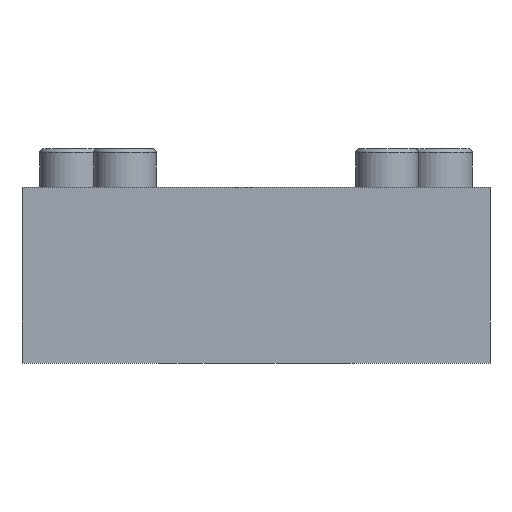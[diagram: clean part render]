
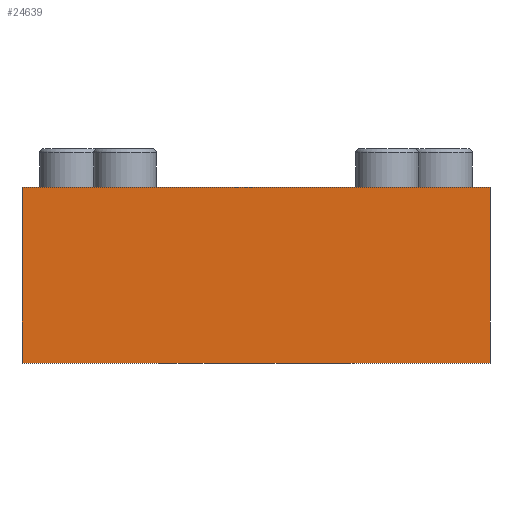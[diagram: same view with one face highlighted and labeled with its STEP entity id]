
A CAD part, front view. The second image highlights one B-rep face of the part: STEP entity #24639.
In plain terms, the highlighted planar face has unit normal (0, -1, 0).
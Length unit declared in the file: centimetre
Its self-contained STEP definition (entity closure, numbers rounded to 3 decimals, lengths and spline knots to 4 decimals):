
#2633=FACE_OUTER_BOUND('',#3931,.T.);
#3931=EDGE_LOOP('',(#16691,#16692,#16693,#16694));
#5357=LINE('',#31530,#8061);
#5361=LINE('',#31539,#8065);
#5362=LINE('',#31540,#8066);
#5363=LINE('',#31541,#8067);
#8061=VECTOR('',#26907,4.506);
#8065=VECTOR('',#26913,4.506);
#8066=VECTOR('',#26914,12.);
#8067=VECTOR('',#26915,12.);
#10799=VERTEX_POINT('',#31528);
#10800=VERTEX_POINT('',#31529);
#10803=VERTEX_POINT('',#31537);
#10804=VERTEX_POINT('',#31538);
#13159=EDGE_CURVE('',#10799,#10800,#5357,.T.);
#13163=EDGE_CURVE('',#10803,#10804,#5361,.T.);
#13164=EDGE_CURVE('',#10800,#10804,#5362,.T.);
#13165=EDGE_CURVE('',#10803,#10799,#5363,.T.);
#16691=ORIENTED_EDGE('',*,*,#13163,.T.);
#16692=ORIENTED_EDGE('',*,*,#13164,.F.);
#16693=ORIENTED_EDGE('',*,*,#13159,.F.);
#16694=ORIENTED_EDGE('',*,*,#13165,.F.);
#23741=PLANE('',#25941);
#24639=ADVANCED_FACE('',(#2633),#23741,.T.);
#25941=AXIS2_PLACEMENT_3D('',#31536,#26911,#26912);
#26907=DIRECTION('',(0.,0.,1.));
#26911=DIRECTION('center_axis',(0.,-1.,0.));
#26912=DIRECTION('ref_axis',(-1.,0.,0.));
#26913=DIRECTION('',(0.,0.,1.));
#26914=DIRECTION('',(1.,0.,0.));
#26915=DIRECTION('',(-1.,0.,0.));
#31528=CARTESIAN_POINT('',(-6.,-13.5,0.));
#31529=CARTESIAN_POINT('',(-6.,-13.5,4.506));
#31530=CARTESIAN_POINT('',(-6.,-13.5,0.));
#31536=CARTESIAN_POINT('Origin',(6.,-13.5,4.506));
#31537=CARTESIAN_POINT('',(6.,-13.5,0.));
#31538=CARTESIAN_POINT('',(6.,-13.5,4.506));
#31539=CARTESIAN_POINT('',(6.,-13.5,0.));
#31540=CARTESIAN_POINT('',(-6.,-13.5,4.506));
#31541=CARTESIAN_POINT('',(6.,-13.5,0.));
